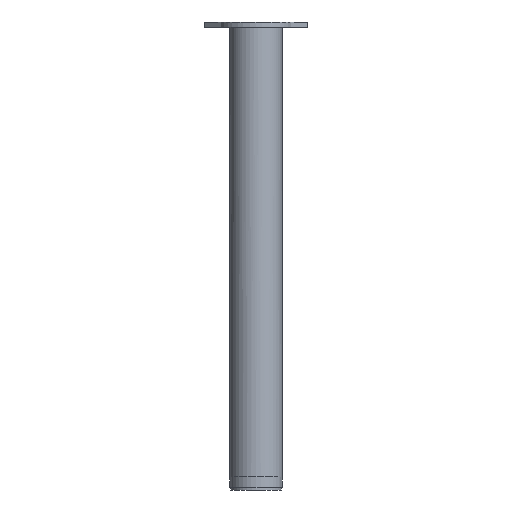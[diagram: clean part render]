
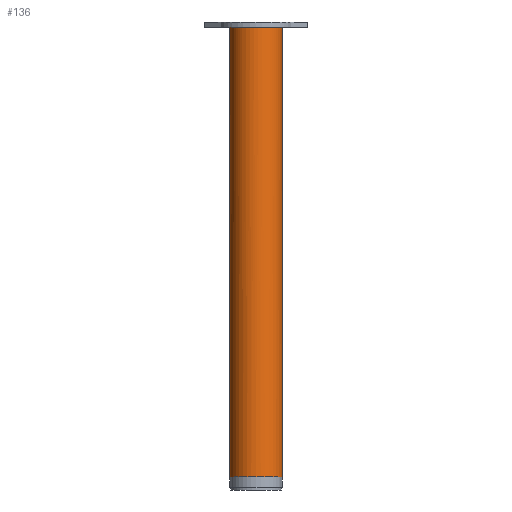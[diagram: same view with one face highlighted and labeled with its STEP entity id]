
A CAD part, front view. The second image highlights one B-rep face of the part: STEP entity #136.
In plain terms, the highlighted cylindrical face has radius 40 mm (diameter 80 mm), a full revolution.
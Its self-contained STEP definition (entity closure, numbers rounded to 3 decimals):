
#136 = ADVANCED_FACE( '', ( #298, #299 ), #300, .T. );
#298 = FACE_OUTER_BOUND( '', #479, .T. );
#299 = FACE_OUTER_BOUND( '', #480, .T. );
#300 = CYLINDRICAL_SURFACE( '', #481, 40. );
#479 = EDGE_LOOP( '', ( #813, #814, #815, #816 ) );
#480 = EDGE_LOOP( '', ( #817 ) );
#481 = AXIS2_PLACEMENT_3D( '', #818, #819, #820 );
#813 = ORIENTED_EDGE( '', *, *, #1048, .F. );
#814 = ORIENTED_EDGE( '', *, *, #1078, .T. );
#815 = ORIENTED_EDGE( '', *, *, #1079, .F. );
#816 = ORIENTED_EDGE( '', *, *, #1080, .T. );
#817 = ORIENTED_EDGE( '', *, *, #945, .T. );
#818 = CARTESIAN_POINT( '', ( 0., 0., 1000. ) );
#819 = DIRECTION( '', ( 0., 0., -1. ) );
#820 = DIRECTION( '', ( 1., 0., 0. ) );
#945 = EDGE_CURVE( '', #1104, #1104, #1105, .T. );
#1048 = EDGE_CURVE( '', #1274, #1188, #1275, .T. );
#1078 = EDGE_CURVE( '', #1274, #1173, #1314, .F. );
#1079 = EDGE_CURVE( '', #1315, #1173, #1316, .T. );
#1080 = EDGE_CURVE( '', #1315, #1188, #1317, .F. );
#1104 = VERTEX_POINT( '', #1344 );
#1105 = CIRCLE( '', #1345, 40. );
#1173 = VERTEX_POINT( '', #1429 );
#1188 = VERTEX_POINT( '', #1449 );
#1274 = VERTEX_POINT( '', #1565 );
#1275 = CIRCLE( '', #1566, 40. );
#1314 = CIRCLE( '', #1617, 40. );
#1315 = VERTEX_POINT( '', #1618 );
#1316 = CIRCLE( '', #1619, 40. );
#1317 = CIRCLE( '', #1620, 40. );
#1344 = CARTESIAN_POINT( '', ( 40., 0., -690. ) );
#1345 = AXIS2_PLACEMENT_3D( '', #1651, #1652, #1653 );
#1429 = CARTESIAN_POINT( '', ( -21.153, -33.949, -8. ) );
#1449 = CARTESIAN_POINT( '', ( 29.666, -26.831, -8. ) );
#1565 = CARTESIAN_POINT( '', ( 21.153, -33.949, -8. ) );
#1566 = AXIS2_PLACEMENT_3D( '', #1780, #1781, #1782 );
#1617 = AXIS2_PLACEMENT_3D( '', #1825, #1826, #1827 );
#1618 = CARTESIAN_POINT( '', ( -29.666, -26.831, -8. ) );
#1619 = AXIS2_PLACEMENT_3D( '', #1828, #1829, #1830 );
#1620 = AXIS2_PLACEMENT_3D( '', #1831, #1832, #1833 );
#1651 = CARTESIAN_POINT( '', ( 0., 0., -690. ) );
#1652 = DIRECTION( '', ( 0., 0., 1. ) );
#1653 = DIRECTION( '', ( 1., 0., 0. ) );
#1780 = CARTESIAN_POINT( '', ( 0., 0., -8. ) );
#1781 = DIRECTION( '', ( 0., 0., 1. ) );
#1782 = DIRECTION( '', ( 1., 0., 0. ) );
#1825 = CARTESIAN_POINT( '', ( 0., 0., -8. ) );
#1826 = DIRECTION( '', ( 0., 0., 1. ) );
#1827 = DIRECTION( '', ( 1., 0., 0. ) );
#1828 = CARTESIAN_POINT( '', ( 0., 0., -8. ) );
#1829 = DIRECTION( '', ( 0., 0., 1. ) );
#1830 = DIRECTION( '', ( 1., 0., 0. ) );
#1831 = CARTESIAN_POINT( '', ( 0., 0., -8. ) );
#1832 = DIRECTION( '', ( 0., 0., 1. ) );
#1833 = DIRECTION( '', ( 1., 0., 0. ) );
